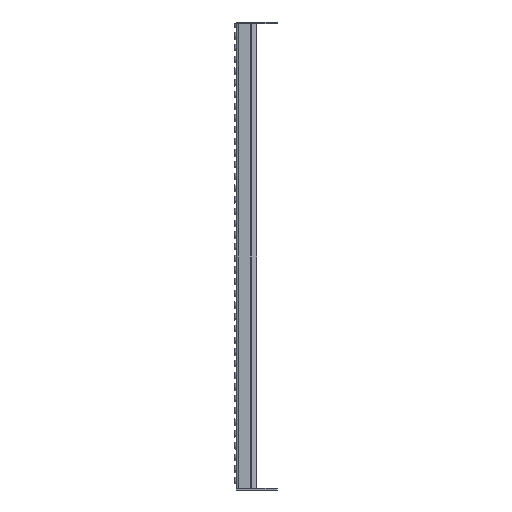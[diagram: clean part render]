
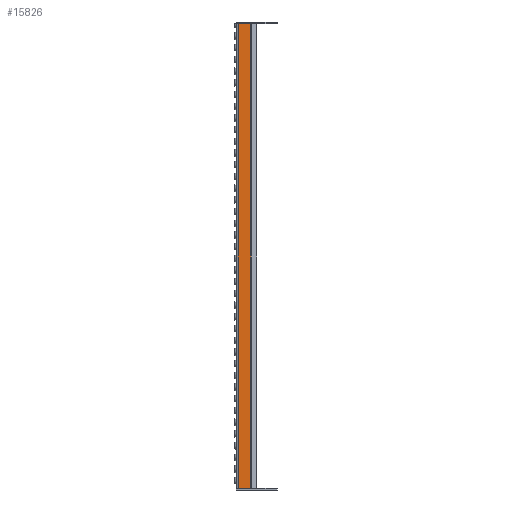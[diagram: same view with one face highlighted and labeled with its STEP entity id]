
A CAD part, left-side view. The second image highlights one B-rep face of the part: STEP entity #15826.
In plain terms, the highlighted planar face has unit normal (-1, 0, 0).
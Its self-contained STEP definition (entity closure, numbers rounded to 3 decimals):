
#2124=FACE_OUTER_BOUND('',#3285,.T.);
#3285=EDGE_LOOP('',(#13150,#13151,#13152,#13153));
#4442=LINE('',#29524,#5962);
#4453=LINE('',#29554,#5973);
#4463=LINE('',#29577,#5983);
#4470=LINE('',#29592,#5990);
#5962=VECTOR('',#20758,10.);
#5973=VECTOR('',#20783,10.);
#5983=VECTOR('',#20805,10.);
#5990=VECTOR('',#20824,10.);
#7565=VERTEX_POINT('',#29521);
#7566=VERTEX_POINT('',#29523);
#7578=VERTEX_POINT('',#29553);
#7585=VERTEX_POINT('',#29576);
#9488=EDGE_CURVE('',#7566,#7565,#4442,.T.);
#9503=EDGE_CURVE('',#7565,#7578,#4453,.T.);
#9515=EDGE_CURVE('',#7585,#7566,#4463,.T.);
#9523=EDGE_CURVE('',#7578,#7585,#4470,.T.);
#13150=ORIENTED_EDGE('',*,*,#9503,.T.);
#13151=ORIENTED_EDGE('',*,*,#9523,.T.);
#13152=ORIENTED_EDGE('',*,*,#9515,.T.);
#13153=ORIENTED_EDGE('',*,*,#9488,.T.);
#14894=PLANE('',#17327);
#15826=ADVANCED_FACE('',(#2124),#14894,.T.);
#17327=AXIS2_PLACEMENT_3D('',#29593,#20825,#20826);
#20758=DIRECTION('',(0.,1.,0.));
#20783=DIRECTION('',(0.,0.,-1.));
#20805=DIRECTION('',(0.,0.,1.));
#20824=DIRECTION('',(0.,-1.,0.));
#20825=DIRECTION('center_axis',(-1.,0.,0.));
#20826=DIRECTION('ref_axis',(0.,0.,1.));
#29521=CARTESIAN_POINT('',(0.,-3.25,794.));
#29523=CARTESIAN_POINT('',(0.,-24.427,794.));
#29524=CARTESIAN_POINT('',(0.,0.,794.));
#29553=CARTESIAN_POINT('',(0.,-3.25,0.));
#29554=CARTESIAN_POINT('',(0.,-3.25,0.));
#29576=CARTESIAN_POINT('',(0.,-24.427,0.));
#29577=CARTESIAN_POINT('',(0.,-24.427,198.5));
#29592=CARTESIAN_POINT('',(0.,0.,0.));
#29593=CARTESIAN_POINT('Origin',(0.,-25.,0.));
